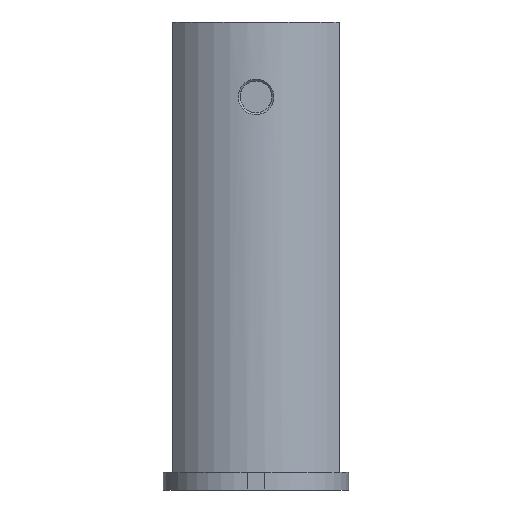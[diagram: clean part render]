
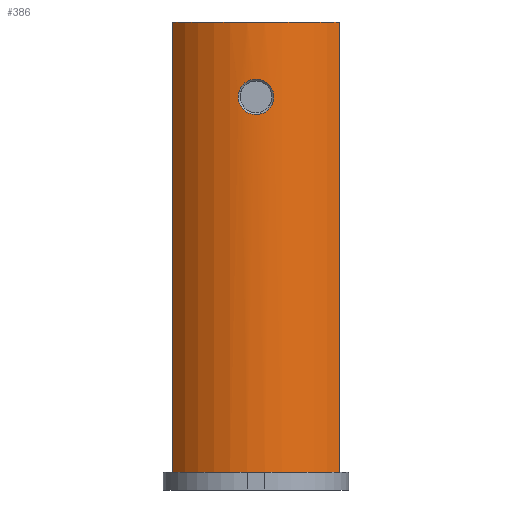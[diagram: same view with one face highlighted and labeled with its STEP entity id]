
A CAD part, front view. The second image highlights one B-rep face of the part: STEP entity #386.
In plain terms, the highlighted cylindrical face has radius 11.4 mm (diameter 22.8 mm), a partial arc.
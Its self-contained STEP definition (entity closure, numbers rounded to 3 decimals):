
#15=FACE_BOUND('',#55,.T.);
#16=B_SPLINE_CURVE_WITH_KNOTS('',3,(#711,#712,#713,#714,#715,#716,#717,
#718,#719,#720,#721,#722,#723,#724,#725,#726,#727,#728,#729,#730,#731,#732,
#733,#734,#735,#736,#737),.UNSPECIFIED.,.T.,.F.,(4,1,1,1,1,1,1,1,1,1,1,
1,1,1,2,2,1,1,1,2,1,4),(0.,0.054,0.072,0.144,
0.18,0.216,0.289,0.325,
0.361,0.397,0.415,0.433,
0.505,0.523,0.577,0.641,
0.706,0.754,0.834,0.898,
0.962,1.026),.UNSPECIFIED.);
#23=CYLINDRICAL_SURFACE('',#438,11.4);
#32=FACE_OUTER_BOUND('',#54,.T.);
#54=EDGE_LOOP('',(#284,#285,#286,#287));
#55=EDGE_LOOP('',(#288));
#81=LINE('',#772,#122);
#82=LINE('',#775,#123);
#122=VECTOR('',#497,10.);
#123=VECTOR('',#500,10.);
#157=CIRCLE('',#430,11.4);
#161=CIRCLE('',#439,11.4);
#170=VERTEX_POINT('',#577);
#171=VERTEX_POINT('',#579);
#178=VERTEX_POINT('',#709);
#180=VERTEX_POINT('',#771);
#181=VERTEX_POINT('',#773);
#206=EDGE_CURVE('',#171,#170,#157,.T.);
#218=EDGE_CURVE('',#178,#178,#16,.T.);
#221=EDGE_CURVE('',#180,#170,#81,.T.);
#222=EDGE_CURVE('',#181,#180,#161,.T.);
#223=EDGE_CURVE('',#181,#171,#82,.T.);
#284=ORIENTED_EDGE('',*,*,#221,.F.);
#285=ORIENTED_EDGE('',*,*,#222,.F.);
#286=ORIENTED_EDGE('',*,*,#223,.T.);
#287=ORIENTED_EDGE('',*,*,#206,.T.);
#288=ORIENTED_EDGE('',*,*,#218,.F.);
#386=ADVANCED_FACE('',(#32,#15),#23,.T.);
#430=AXIS2_PLACEMENT_3D('',#580,#471,#472);
#438=AXIS2_PLACEMENT_3D('',#770,#495,#496);
#439=AXIS2_PLACEMENT_3D('',#774,#498,#499);
#471=DIRECTION('center_axis',(0.,0.,1.));
#472=DIRECTION('ref_axis',(0.781,0.625,0.));
#495=DIRECTION('center_axis',(0.,0.,-1.));
#496=DIRECTION('ref_axis',(0.781,0.625,0.));
#497=DIRECTION('',(0.,0.,-1.));
#498=DIRECTION('center_axis',(0.,0.,1.));
#499=DIRECTION('ref_axis',(0.781,0.625,0.));
#500=DIRECTION('',(0.,0.,-1.));
#577=CARTESIAN_POINT('',(8.9,-7.124,-50.1));
#579=CARTESIAN_POINT('',(-8.9,-7.124,-50.1));
#580=CARTESIAN_POINT('Origin',(0.,0.,-50.1));
#709=CARTESIAN_POINT('',(1.897,-11.241,-10.));
#711=CARTESIAN_POINT('Ctrl Pts',(1.897,-11.241,-10.));
#712=CARTESIAN_POINT('Ctrl Pts',(1.897,-11.241,-9.798));
#713=CARTESIAN_POINT('Ctrl Pts',(1.853,-11.249,-9.515));
#714=CARTESIAN_POINT('Ctrl Pts',(1.635,-11.283,-8.982));
#715=CARTESIAN_POINT('Ctrl Pts',(1.335,-11.325,-8.601));
#716=CARTESIAN_POINT('Ctrl Pts',(0.866,-11.369,-8.291));
#717=CARTESIAN_POINT('Ctrl Pts',(0.32,-11.401,-8.09));
#718=CARTESIAN_POINT('Ctrl Pts',(-0.226,-11.403,-8.079));
#719=CARTESIAN_POINT('Ctrl Pts',(-0.777,-11.376,-8.247));
#720=CARTESIAN_POINT('Ctrl Pts',(-1.147,-11.344,-8.468));
#721=CARTESIAN_POINT('Ctrl Pts',(-1.394,-11.315,-8.698));
#722=CARTESIAN_POINT('Ctrl Pts',(-1.564,-11.292,-8.917));
#723=CARTESIAN_POINT('Ctrl Pts',(-1.787,-11.26,-9.28));
#724=CARTESIAN_POINT('Ctrl Pts',(-1.9,-11.241,-9.709));
#725=CARTESIAN_POINT('Ctrl Pts',(-1.896,-11.241,-10.247));
#726=CARTESIAN_POINT('Ctrl Pts',(-1.834,-11.252,-10.531));
#727=CARTESIAN_POINT('Ctrl Pts',(-1.657,-11.279,-10.963));
#728=CARTESIAN_POINT('Ctrl Pts',(-1.51,-11.301,-11.176));
#729=CARTESIAN_POINT('Ctrl Pts',(-1.174,-11.341,-11.513));
#730=CARTESIAN_POINT('Ctrl Pts',(-0.796,-11.378,-11.769));
#731=CARTESIAN_POINT('Ctrl Pts',(-0.062,-11.409,
-11.949));
#732=CARTESIAN_POINT('Ctrl Pts',(0.682,-11.389,-11.84));
#733=CARTESIAN_POINT('Ctrl Pts',(1.176,-11.341,-11.512));
#734=CARTESIAN_POINT('Ctrl Pts',(1.51,-11.301,-11.176));
#735=CARTESIAN_POINT('Ctrl Pts',(1.802,-11.258,-10.749));
#736=CARTESIAN_POINT('Ctrl Pts',(1.897,-11.241,-10.239));
#737=CARTESIAN_POINT('Ctrl Pts',(1.897,-11.241,-10.));
#770=CARTESIAN_POINT('Origin',(0.,0.,-2.));
#771=CARTESIAN_POINT('',(8.9,-7.124,-2.));
#772=CARTESIAN_POINT('',(8.9,-7.124,-50.));
#773=CARTESIAN_POINT('',(-8.9,-7.124,-2.));
#774=CARTESIAN_POINT('Origin',(0.,0.,-2.));
#775=CARTESIAN_POINT('',(-8.9,-7.124,-50.));
